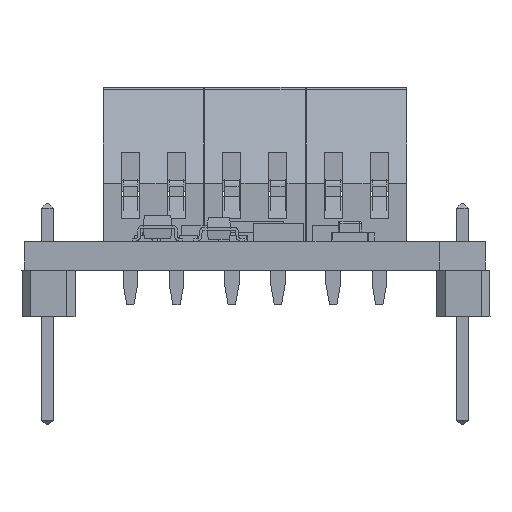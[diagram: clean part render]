
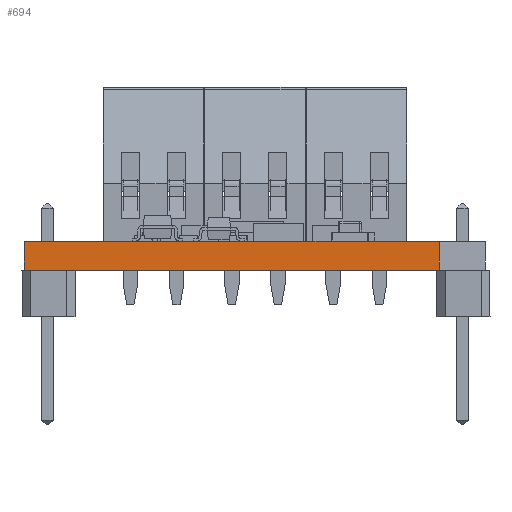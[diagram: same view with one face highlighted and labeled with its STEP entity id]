
A CAD part, front view. The second image highlights one B-rep face of the part: STEP entity #694.
In plain terms, the highlighted planar face has unit normal (0, -1, 0).
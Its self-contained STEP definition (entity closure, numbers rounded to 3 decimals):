
#669 = VERTEX_POINT('',#670);
#670 = CARTESIAN_POINT('',(21.59,-3.81,0.));
#676 = EDGE_CURVE('',#677,#669,#679,.T.);
#677 = VERTEX_POINT('',#678);
#678 = CARTESIAN_POINT('',(21.59,-3.81,-1.59));
#679 = LINE('',#680,#681);
#680 = CARTESIAN_POINT('',(21.59,-3.81,-1.59));
#681 = VECTOR('',#682,1.);
#682 = DIRECTION('',(0.,0.,1.));
#694 = ADVANCED_FACE('',(#695),#720,.T.);
#695 = FACE_BOUND('',#696,.T.);
#696 = EDGE_LOOP('',(#697,#698,#706,#714));
#697 = ORIENTED_EDGE('',*,*,#676,.T.);
#698 = ORIENTED_EDGE('',*,*,#699,.T.);
#699 = EDGE_CURVE('',#669,#700,#702,.T.);
#700 = VERTEX_POINT('',#701);
#701 = CARTESIAN_POINT('',(-1.27,-3.81,0.));
#702 = LINE('',#703,#704);
#703 = CARTESIAN_POINT('',(21.59,-3.81,0.));
#704 = VECTOR('',#705,1.);
#705 = DIRECTION('',(-1.,0.,0.));
#706 = ORIENTED_EDGE('',*,*,#707,.F.);
#707 = EDGE_CURVE('',#708,#700,#710,.T.);
#708 = VERTEX_POINT('',#709);
#709 = CARTESIAN_POINT('',(-1.27,-3.81,-1.59));
#710 = LINE('',#711,#712);
#711 = CARTESIAN_POINT('',(-1.27,-3.81,-1.59));
#712 = VECTOR('',#713,1.);
#713 = DIRECTION('',(0.,0.,1.));
#714 = ORIENTED_EDGE('',*,*,#715,.F.);
#715 = EDGE_CURVE('',#677,#708,#716,.T.);
#716 = LINE('',#717,#718);
#717 = CARTESIAN_POINT('',(21.59,-3.81,-1.59));
#718 = VECTOR('',#719,1.);
#719 = DIRECTION('',(-1.,0.,0.));
#720 = PLANE('',#721);
#721 = AXIS2_PLACEMENT_3D('',#722,#723,#724);
#722 = CARTESIAN_POINT('',(21.59,-3.81,-1.59));
#723 = DIRECTION('',(0.,-1.,0.));
#724 = DIRECTION('',(-1.,0.,0.));
